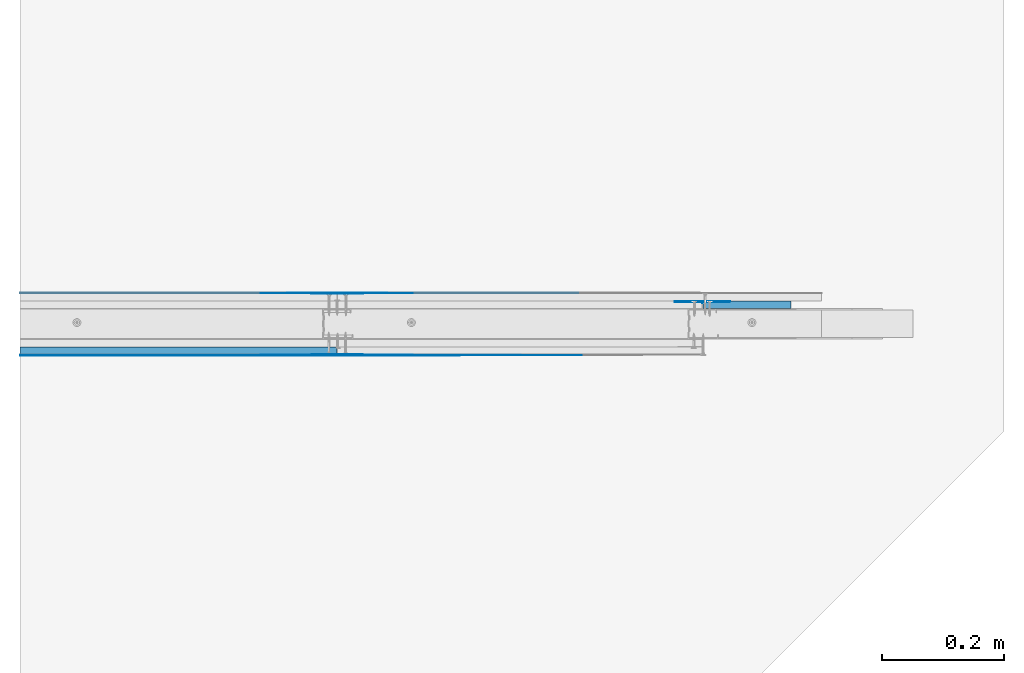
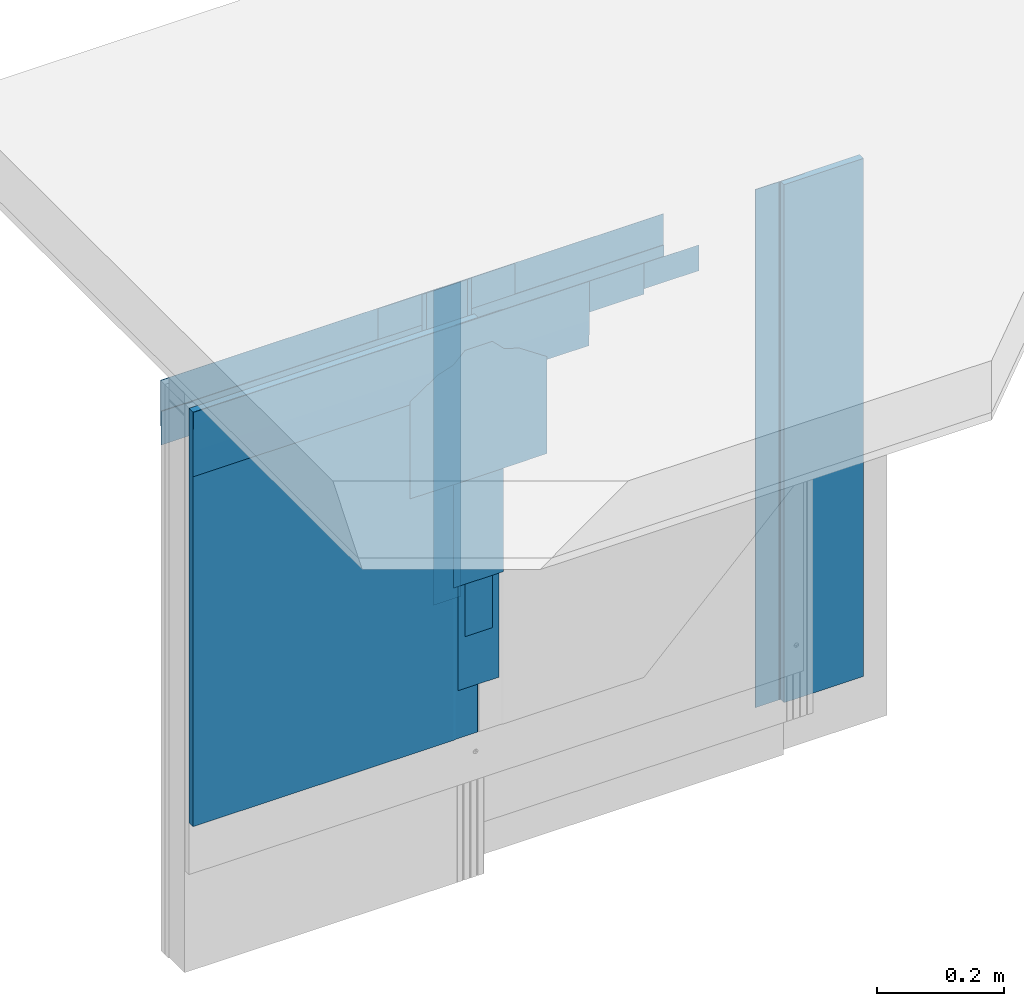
# One storey, part 3 of 36: 15 walls.
"""IFC2X3 building model written with IfcOpenShell, lengths in millimetres."""

from ifc_helpers import new_model, entity, si_unit, converted_unit, direction, frame, origin, origin_with_axes, place, context, project, spatial, faceted_brep, element, save


model = new_model("IFC2X3")

# Units and contexts
model_context = context("Model", 3, precision=1e-05, world=origin(), true_north=direction((0.0, 1.0, 0.0)))
ifc_project = project(units=[si_unit("LENGTHUNIT", "METRE", prefix="MILLI"), si_unit("AREAUNIT", "SQUARE_METRE"), si_unit("VOLUMEUNIT", "CUBIC_METRE"), converted_unit("PLANEANGLEUNIT", "DEGREE", entity("IfcPlaneAngleMeasure", 0.01745), si_unit("PLANEANGLEUNIT", "RADIAN"), dimensions=[0, 0, 0, 0, 0, 0, 0]), si_unit("SOLIDANGLEUNIT", "STERADIAN"), si_unit("MASSUNIT", "GRAM"), si_unit("TIMEUNIT", "SECOND"), si_unit("THERMODYNAMICTEMPERATUREUNIT", "DEGREE_CELSIUS"), si_unit("LUMINOUSINTENSITYUNIT", "LUMEN")], contexts=[model_context])

# Site, building, storey
site_placement = place(None, origin_with_axes())
site = spatial("IfcSite", under=ifc_project, at=site_placement, Name="Default Site", CompositionType="ELEMENT")
building_placement = place(site_placement, origin_with_axes())
building = spatial("IfcBuilding", under=site, at=building_placement, Name="Default Building", CompositionType="ELEMENT")
storey_placement = place(building_placement, origin_with_axes())
storey = spatial("IfcBuildingStorey", under=building, at=storey_placement, Name="Default Building Storey", CompositionType="ELEMENT", Elevation=0.0)

# Walls
wall_1_placement = place(storey_placement, frame((3247.843862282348, 2022.140922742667, 92.64515101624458), z_axis=(0.0, 0.0, -1.0), x_axis=(1.0, 0.0, 0.0)))
element("IfcWall", 1, at=wall_1_placement, inside=storey, Name="Płyta gipsowo-kartonowa RIGIPS PRO (4PRO™)", context=model_context, shape_type="Brep", body=[
    faceted_brep([(145.1967559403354, -12.49999999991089, -277.7777289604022), (145.1967559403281, 9.059988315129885e-11, -277.7777289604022), (145.1967559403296, 9.023892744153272e-11, -1277.779310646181), (145.1967559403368, -12.49999999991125, -1277.779310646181), (0.0, 0.0, -277.7777289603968), (44.99999999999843, -12.50000000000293, -277.7777289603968), (40.99999999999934, -11.50000000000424, -277.7777289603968), (0.9999999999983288, -11.5000000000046, -277.7777289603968), (0.7411809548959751, -11.46592582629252, -277.7777289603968), (0.4999999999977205, -11.3660254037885, -277.7777289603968), (0.2928932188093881, -11.20710678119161, -277.7777289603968), (0.1339745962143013, -11.00000000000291, -277.7777289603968), (0.03407417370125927, -10.7588190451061, -277.7777289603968), (-2.887645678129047e-12, -10.50000000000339, -277.7777289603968), (44.99999999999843, -12.50000000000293, -1277.779310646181), (40.99999999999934, -11.50000000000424, -1277.779310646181), (0.9999999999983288, -11.5000000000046, -1277.779310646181), (0.7411809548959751, -11.46592582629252, -1277.779310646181), (0.4999999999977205, -11.3660254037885, -1277.779310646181), (0.2928932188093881, -11.20710678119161, -1277.779310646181), (0.1339745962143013, -11.00000000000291, -1277.779310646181), (0.03407417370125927, -10.7588190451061, -1277.779310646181), (-2.887645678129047e-12, -10.50000000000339, -1277.779310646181), (0.0, 0.0, -1277.779310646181)], [[[0, 1, 2, 3]], [[4, 1, 0, 5, 6, 7, 8, 9, 10, 11, 12, 13]], [[0, 3, 14, 5]], [[6, 5, 14, 15]], [[7, 6, 15, 16]], [[8, 7, 16, 17]], [[9, 8, 17, 18]], [[10, 9, 18, 19]], [[11, 10, 19, 20]], [[12, 11, 20, 21]], [[13, 12, 21, 22]], [[4, 13, 22, 23]], [[23, 2, 1, 4]], [[14, 3, 2, 23, 22, 21, 20, 19, 18, 17, 16, 15]]]),
])
wall_2_placement = place(storey_placement, frame((3984.303078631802, -1356.465798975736, 1077.246212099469), z_axis=(0.0, 0.0, -1.0), x_axis=(1.0, 0.0, 0.0)))
element("IfcWall", 2, at=wall_2_placement, inside=storey, Name="Dedykowana masa szpachlowa Rigips - konstrukcyjna", context=model_context, shape_type="Brep", body=[
    faceted_brep([(-737.4838396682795, -3387.669590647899, 706.8233321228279), (-737.4592163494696, -3387.356721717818, 706.8233321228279), (-737.4345930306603, -3387.669590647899, 706.8233321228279), (-737.3613293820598, -3387.974755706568, 706.8233321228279), (-737.2412293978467, -3388.264702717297, 706.8233321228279), (-737.0772503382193, -3388.532292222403, 706.8233321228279), (-736.8734299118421, -3388.770935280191, 706.8233321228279), (-736.6347868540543, -3388.974755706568, 706.8233321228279), (-736.3671973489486, -3389.138734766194, 706.8233321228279), (-736.0772503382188, -3389.258834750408, 706.8233321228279), (-735.7720852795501, -3389.332098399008, 706.8233321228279), (-735.4592163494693, -3389.356721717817, 706.8233321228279), (-692.4592163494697, -3389.356721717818, 706.8233321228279), (-691.4592163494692, -3390.556721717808, 706.8233321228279), (-782.4592163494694, -3390.556721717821, 706.8233321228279), (-782.4592163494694, -3389.356721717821, 706.8233321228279), (-739.4592163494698, -3389.356721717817, 706.8233321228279), (-739.146347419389, -3389.332098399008, 706.8233321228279), (-738.8411823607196, -3389.258834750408, 706.8233321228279), (-738.5512353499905, -3389.138734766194, 706.8233321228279), (-738.2836458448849, -3388.974755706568, 706.8233321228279), (-738.045002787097, -3388.770935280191, 706.8233321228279), (-737.8411823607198, -3388.532292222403, 706.8233321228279), (-737.6772033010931, -3388.264702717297, 706.8233321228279), (-737.5571033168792, -3387.974755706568, 706.8233321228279), (-691.4592163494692, -3390.556721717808, -293.178249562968), (-692.4592163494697, -3389.356721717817, -293.178249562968), (-735.4592163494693, -3389.356721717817, -293.178249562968), (-735.7720852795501, -3389.332098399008, -293.178249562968), (-736.0772503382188, -3389.258834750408, -293.178249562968), (-736.3671973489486, -3389.138734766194, -293.178249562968), (-736.6347868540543, -3388.974755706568, -293.178249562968), (-736.8734299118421, -3388.77093528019, -293.178249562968), (-737.0772503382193, -3388.532292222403, -293.178249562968), (-737.2412293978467, -3388.264702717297, -293.178249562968), (-737.3613293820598, -3387.974755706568, -293.178249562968), (-737.4345930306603, -3387.669590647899, -293.178249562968), (-737.4592163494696, -3387.356721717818, -293.178249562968), (-737.4838396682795, -3387.669590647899, -293.178249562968), (-737.5571033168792, -3387.974755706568, -293.178249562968), (-737.6772033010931, -3388.264702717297, -293.178249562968), (-737.8411823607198, -3388.532292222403, -293.178249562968), (-738.045002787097, -3388.77093528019, -293.178249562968), (-738.2836458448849, -3388.974755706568, -293.178249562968), (-738.5512353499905, -3389.138734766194, -293.178249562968), (-738.8411823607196, -3389.258834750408, -293.178249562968), (-739.146347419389, -3389.332098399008, -293.178249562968), (-739.4592163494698, -3389.356721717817, -293.178249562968), (-782.4592163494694, -3389.356721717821, -293.178249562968), (-782.4592163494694, -3390.556721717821, -293.178249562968)], [[[0, 1, 2, 3, 4, 5, 6, 7, 8, 9, 10, 11, 12, 13, 14, 15, 16, 17, 18, 19, 20, 21, 22, 23, 24]], [[25, 26, 27, 28, 29, 30, 31, 32, 33, 34, 35, 36, 37, 38, 39, 40, 41, 42, 43, 44, 45, 46, 47, 48, 49]], [[26, 12, 11, 27]], [[10, 9, 29, 28]], [[28, 27, 11, 10]], [[8, 30, 29, 9]], [[7, 6, 32, 31]], [[31, 30, 8, 7]], [[5, 4, 34, 33]], [[33, 32, 6, 5]], [[3, 35, 34, 4]], [[2, 1, 37, 36]], [[36, 35, 3, 2]], [[0, 24, 39, 38]], [[38, 37, 1, 0]], [[23, 40, 39, 24]], [[22, 21, 42, 41]], [[41, 40, 23, 22]], [[20, 19, 44, 43]], [[43, 42, 21, 20]], [[18, 45, 44, 19]], [[17, 16, 47, 46]], [[46, 45, 18, 17]], [[47, 16, 15, 48]], [[48, 15, 14, 49]], [[49, 14, 13, 25]], [[25, 13, 12, 26]]]),
])
wall_3_placement = place(storey_placement, frame((2646.242430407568, 1958.680077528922, 320.4228799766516), z_axis=(0.0, 0.0, -1.0), x_axis=(-1.0, 6.389333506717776e-13, 0.0)))
element("IfcWall", 3, at=wall_3_placement, inside=storey, Name="Płyta gipsowo-kartonowa RIGIPS PRO (4PRO™)", context=model_context, shape_type="Brep", body=[
    faceted_brep([(521.2172969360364, -12.49999999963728, -249.9999999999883), (521.2172969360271, 3.349668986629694e-10, -249.9999999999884), (521.217296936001, 3.317182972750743e-10, -1050.001581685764), (521.2172969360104, -12.49999999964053, -1050.001581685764), (44.99999999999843, -12.50000000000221, -249.9999999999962), (40.99999999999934, -11.5000000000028, -249.9999999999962), (0.9999999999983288, -11.50000000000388, -249.9999999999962), (0.7411809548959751, -11.46592582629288, -249.9999999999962), (0.4999999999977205, -11.3660254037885, -249.9999999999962), (0.29289321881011, -11.20710678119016, -249.9999999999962), (0.1339745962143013, -11.00000000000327, -249.9999999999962), (0.03407417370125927, -10.7588190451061, -249.9999999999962), (-1.082867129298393e-12, -10.50000000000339, -249.9999999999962), (0.0, 0.0, -249.9999999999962), (44.99999999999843, -12.50000000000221, -1050.001581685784), (40.99999999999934, -11.5000000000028, -1050.001581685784), (0.9999999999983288, -11.50000000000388, -1050.001581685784), (0.7411809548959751, -11.46592582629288, -1050.001581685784), (0.4999999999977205, -11.3660254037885, -1050.001581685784), (0.29289321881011, -11.20710678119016, -1050.001581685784), (0.1339745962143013, -11.00000000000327, -1050.001581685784), (0.03407417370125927, -10.7588190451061, -1050.001581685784), (-1.082867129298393e-12, -10.50000000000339, -1050.001581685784), (0.0, 0.0, -1050.001581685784)], [[[0, 1, 2, 3]], [[0, 4, 5, 6, 7, 8, 9, 10, 11, 12, 13, 1]], [[3, 14, 4, 0]], [[5, 4, 14, 15]], [[6, 5, 15, 16]], [[7, 6, 16, 17]], [[8, 7, 17, 18]], [[9, 8, 18, 19]], [[10, 9, 19, 20]], [[11, 10, 20, 21]], [[12, 11, 21, 22]], [[13, 12, 22, 23]], [[2, 1, 13, 23]], [[14, 3, 2, 23, 22, 21, 20, 19, 18, 17, 16, 15]]]),
])
wall_4_placement = place(storey_placement, frame((3384.701646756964, -1343.275798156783, 1010.667767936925), z_axis=(1.250805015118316e-13, -1.021019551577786e-13, -1.0), x_axis=(1.0, -5.330939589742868e-15, 1.250805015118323e-13)))
element("IfcWall", 4, at=wall_4_placement, inside=storey, Name="Taśma spoinowa RIGIPS", context=model_context, shape_type="Brep", body=[
    faceted_brep([(-712.4592163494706, -3389.656721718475, 247.8592804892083), (-712.4592163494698, -3389.856721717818, 247.8592804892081), (-762.45921634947, -3389.856721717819, 247.8592804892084), (-762.4592163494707, -3389.656721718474, 247.8592804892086), (-712.4592163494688, -3389.856721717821, -359.7566937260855), (-712.4592163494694, -3389.656721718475, -359.7566937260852), (-762.4592163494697, -3389.656721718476, -359.756693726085), (-762.4592163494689, -3389.856721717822, -359.7566937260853)], [[[0, 1, 2, 3]], [[4, 5, 6, 7]], [[5, 0, 3, 6]], [[6, 3, 2, 7]], [[7, 2, 1, 4]], [[4, 1, 0, 5]]]),
])
wall_5_placement = place(storey_placement, frame((3383.701646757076, -1343.375798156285, 1372.936986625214), z_axis=(0.0, 0.0, -1.0), x_axis=(1.0, 0.0, 0.0)))
element("IfcWall", 5, at=wall_5_placement, inside=storey, Name="Dedykowana masa szpachlowa Rigips - wykończeniowa", context=model_context, shape_type="Brep", body=[
    faceted_brep([(-612.459216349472, -3390.556721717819, 2.51252496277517), (-862.459216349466, -3390.556721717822, 2.51252496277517), (-812.4612643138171, -3391.196716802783, 2.51252496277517), (-762.4602403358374, -3391.516720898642, 2.51252496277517), (-712.458192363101, -3391.516720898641, 2.51252496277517), (-662.4571683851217, -3391.19671680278, 2.51252496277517), (-762.4602403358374, -3391.516720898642, 308.4769205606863), (-812.4612643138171, -3391.196716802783, 308.4769205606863), (-862.459216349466, -3390.556721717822, 308.4769205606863), (-612.459216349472, -3390.556721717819, 308.4769205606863), (-662.4571683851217, -3391.19671680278, 308.4769205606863), (-712.458192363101, -3391.516720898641, 308.4769205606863)], [[[0, 1, 2, 3, 4, 5]], [[6, 7, 8, 9, 10, 11]], [[9, 0, 5, 10]], [[10, 5, 4, 11]], [[11, 4, 3, 6]], [[6, 3, 2, 7]], [[1, 8, 7, 2]], [[0, 9, 8, 1]]]),
])
wall_6_placement = place(storey_placement, frame((3396.701646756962, -1343.475798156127, 1048.692432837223), z_axis=(1.250805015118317e-13, -1.018436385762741e-13, -1.0), x_axis=(1.0, -5.330939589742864e-15, 1.250805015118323e-13)))
element("IfcWall", 6, at=wall_6_placement, inside=storey, Name="Dedykowana masa szpachlowa Rigips - konstrukcyjna", context=model_context, shape_type="Brep", body=[
    faceted_brep([(-712.459216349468, -3389.656721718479, 385.8839453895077), (-712.4592163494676, -3389.856721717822, 385.8839453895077), (-787.4592163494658, -3389.856721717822, 385.8839453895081), (-787.4592163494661, -3389.656721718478, 385.8839453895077), (-712.4592163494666, -3389.856721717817, -321.7320288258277), (-712.4592163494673, -3389.656721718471, -321.7320288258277), (-787.4592163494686, -3389.656721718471, -321.7320288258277), (-787.459216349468, -3389.856721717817, -321.7320288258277)], [[[0, 1, 2, 3]], [[4, 5, 6, 7]], [[5, 0, 3, 6]], [[6, 3, 2, 7]], [[7, 2, 1, 4]], [[4, 1, 0, 5]]]),
])
wall_7_placement = place(storey_placement, frame((1909.783214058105, -1343.375798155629, 1372.911892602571), z_axis=(0.0, 0.0, -1.0), x_axis=(-1.0, 0.0, 0.0)))
element("IfcWall", 7, at=wall_7_placement, inside=storey, Name="Dedykowana masa szpachlowa Rigips - konstrukcyjna", context=model_context, shape_type="Brep", body=[
    faceted_brep([(-691.4592163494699, 3390.556721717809, 508.4518265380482), (-694.7925496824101, 3389.556721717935, 508.4518265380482), (-694.7925496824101, 3389.556721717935, 2.487430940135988), (-691.4592163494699, 3390.556721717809, 2.48743094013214), (-699.4592163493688, 3389.556721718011, 2.48743094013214), (-699.459216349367, 3389.756721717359, 2.48743094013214), (-712.4592163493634, 3389.756721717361, 2.48743094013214), (-712.4592163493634, 3389.956721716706, 2.48743094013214), (-762.459216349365, 3389.956721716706, 2.48743094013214), (-762.4592163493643, 3389.756721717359, 2.48743094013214), (-774.4592163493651, 3389.756721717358, 2.48743094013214), (-774.4592163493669, 3389.556721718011, 2.48743094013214), (-778.4592163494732, 3389.556721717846, 2.48743094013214), (-782.4592163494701, 3390.556721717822, 2.48743094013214), (-778.459216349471, 3389.55672171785, 508.4518265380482), (-774.4592163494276, 3389.556721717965, 508.4518265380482), (-782.4592163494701, 3390.556721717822, 508.4518265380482), (-774.4592163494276, 3389.756721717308, 508.4518265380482), (-762.4592163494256, 3389.756721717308, 508.4518265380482), (-762.4592163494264, 3389.956721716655, 508.4518265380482), (-712.4592163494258, 3389.956721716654, 508.4518265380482), (-712.4592163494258, 3389.75672171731, 508.4518265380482), (-699.4592163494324, 3389.756721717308, 508.4518265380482), (-699.4592163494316, 3389.556721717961, 508.4518265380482)], [[[0, 1, 2, 3]], [[4, 5, 6, 7, 8, 9, 10, 11, 12, 13, 3, 2]], [[14, 12, 11, 15]], [[16, 13, 12, 14]], [[0, 16, 14, 15, 17, 18, 19, 20, 21, 22, 23, 1]], [[13, 16, 0, 3]], [[22, 5, 4, 23]], [[7, 20, 19, 8]], [[6, 21, 20, 7]], [[17, 10, 9, 18]], [[21, 6, 5, 22]], [[1, 23, 4, 2]], [[15, 11, 10, 17]], [[18, 9, 8, 19]]]),
])
wall_8_placement = place(storey_placement, frame((3384.701646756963, 5336.636799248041, 1010.667767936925), z_axis=(1.250805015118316e-13, 1.021019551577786e-13, -1.0), x_axis=(1.0, 5.330939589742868e-15, 1.250805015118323e-13)))
element("IfcWall", 8, at=wall_8_placement, inside=storey, Name="Taśma spoinowa RIGIPS", context=model_context, shape_type="Brep", body=[
    faceted_brep([(-712.4592163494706, 3389.656721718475, 247.8592804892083), (-712.4592163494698, 3389.856721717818, 247.8592804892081), (-762.45921634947, 3389.856721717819, 247.8592804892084), (-762.4592163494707, 3389.656721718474, 247.8592804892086), (-712.4592163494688, 3389.856721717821, -359.7566937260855), (-712.4592163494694, 3389.656721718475, -359.7566937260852), (-762.4592163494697, 3389.656721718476, -359.756693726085), (-762.4592163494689, 3389.856721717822, -359.7566937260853)], [[[0, 1, 2, 3]], [[4, 5, 6, 7]], [[5, 0, 3, 6]], [[6, 3, 2, 7]], [[7, 2, 1, 4]], [[4, 1, 0, 5]]]),
])
wall_9_placement = place(storey_placement, frame((3396.70164675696, 5336.836799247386, 1048.692432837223), z_axis=(1.250805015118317e-13, 1.018436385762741e-13, -1.0), x_axis=(1.0, 5.330939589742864e-15, 1.250805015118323e-13)))
element("IfcWall", 9, at=wall_9_placement, inside=storey, Name="Dedykowana masa szpachlowa Rigips - konstrukcyjna", context=model_context, shape_type="Brep", body=[
    faceted_brep([(-712.459216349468, 3389.656721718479, 385.8839453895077), (-712.4592163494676, 3389.856721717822, 385.8839453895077), (-787.4592163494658, 3389.856721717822, 385.8839453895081), (-787.4592163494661, 3389.656721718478, 385.8839453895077), (-712.4592163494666, 3389.856721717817, -321.7320288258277), (-712.4592163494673, 3389.656721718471, -321.7320288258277), (-787.4592163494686, 3389.656721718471, -321.7320288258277), (-787.459216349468, 3389.856721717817, -321.7320288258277)], [[[0, 1, 2, 3]], [[4, 5, 6, 7]], [[5, 0, 3, 6]], [[6, 3, 2, 7]], [[7, 2, 1, 4]], [[4, 1, 0, 5]]]),
])
wall_10_placement = place(storey_placement, frame((1909.783214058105, 5336.736799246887, 1372.911892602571), z_axis=(0.0, 0.0, -1.0), x_axis=(-1.0, 0.0, 0.0)))
element("IfcWall", 10, at=wall_10_placement, inside=storey, Name="Dedykowana masa szpachlowa Rigips - konstrukcyjna", context=model_context, shape_type="Brep", body=[
    faceted_brep([(-691.4592163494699, -3390.556721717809, 508.4518265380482), (-694.7925496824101, -3389.556721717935, 508.4518265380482), (-694.7925496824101, -3389.556721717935, 2.487430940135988), (-691.4592163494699, -3390.556721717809, 2.48743094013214), (-699.4592163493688, -3389.556721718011, 2.48743094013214), (-699.459216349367, -3389.756721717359, 2.48743094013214), (-712.4592163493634, -3389.756721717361, 2.48743094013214), (-712.4592163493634, -3389.956721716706, 2.48743094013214), (-762.459216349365, -3389.956721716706, 2.48743094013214), (-762.4592163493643, -3389.756721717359, 2.48743094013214), (-774.4592163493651, -3389.756721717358, 2.48743094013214), (-774.4592163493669, -3389.556721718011, 2.48743094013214), (-778.4592163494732, -3389.556721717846, 2.48743094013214), (-782.4592163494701, -3390.556721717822, 2.48743094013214), (-778.459216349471, -3389.55672171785, 508.4518265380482), (-774.4592163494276, -3389.556721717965, 508.4518265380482), (-782.4592163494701, -3390.556721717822, 508.4518265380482), (-774.4592163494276, -3389.756721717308, 508.4518265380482), (-762.4592163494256, -3389.756721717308, 508.4518265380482), (-762.4592163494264, -3389.956721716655, 508.4518265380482), (-712.4592163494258, -3389.956721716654, 508.4518265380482), (-712.4592163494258, -3389.75672171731, 508.4518265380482), (-699.4592163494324, -3389.756721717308, 508.4518265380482), (-699.4592163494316, -3389.556721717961, 508.4518265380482)], [[[0, 1, 2, 3]], [[4, 5, 6, 7, 8, 9, 10, 11, 12, 13, 3, 2]], [[14, 12, 11, 15]], [[16, 13, 12, 14]], [[0, 16, 14, 15, 17, 18, 19, 20, 21, 22, 23, 1]], [[13, 16, 0, 3]], [[22, 5, 4, 23]], [[7, 20, 19, 8]], [[6, 21, 20, 7]], [[17, 10, 9, 18]], [[21, 6, 5, 22]], [[1, 23, 4, 2]], [[15, 11, 10, 17]], [[18, 9, 8, 19]]]),
])
wall_11_placement = place(storey_placement, frame((3383.701646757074, 5336.736799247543, 1372.936986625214), z_axis=(0.0, 0.0, -1.0), x_axis=(1.0, 0.0, 0.0)))
element("IfcWall", 11, at=wall_11_placement, inside=storey, Name="Dedykowana masa szpachlowa Rigips - wykończeniowa", context=model_context, shape_type="Brep", body=[
    faceted_brep([(-612.459216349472, 3390.556721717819, 2.51252496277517), (-862.459216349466, 3390.556721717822, 2.51252496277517), (-812.4612643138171, 3391.196716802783, 2.51252496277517), (-762.4602403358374, 3391.516720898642, 2.51252496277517), (-712.458192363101, 3391.516720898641, 2.51252496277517), (-662.4571683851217, 3391.19671680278, 2.51252496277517), (-762.4602403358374, 3391.516720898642, 308.4769205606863), (-812.4612643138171, 3391.196716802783, 308.4769205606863), (-862.459216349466, 3390.556721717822, 308.4769205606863), (-612.459216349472, 3390.556721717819, 308.4769205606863), (-662.4571683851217, 3391.19671680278, 308.4769205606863), (-712.458192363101, 3391.516720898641, 308.4769205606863)], [[[0, 1, 2, 3, 4, 5]], [[6, 7, 8, 9, 10, 11]], [[9, 0, 5, 10]], [[10, 5, 4, 11]], [[11, 4, 3, 6]], [[6, 3, 2, 7]], [[1, 8, 7, 2]], [[0, 9, 8, 1]]]),
])
wall_12_placement = place(storey_placement, frame((2562.545703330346, 5335.136799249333, 2083.183678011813), z_axis=(1.0, 1.078684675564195e-13, 1.253835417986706e-13), x_axis=(-1.253835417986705e-13, -6.938893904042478e-16, 1.0)))
element("IfcWall", 12, at=wall_12_placement, inside=storey, Name="Dedykowana masa szpachlowa Rigips - konstrukcyjna", context=model_context, shape_type="Brep", body=[
    faceted_brep([(-762.459216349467, 3389.656721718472, -437.5205698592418), (-762.4592163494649, 3389.656721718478, 385.8839453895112), (-762.4592163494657, 3388.956721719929, 385.8839453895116), (-762.4592163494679, 3388.956721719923, -437.5205698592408), (-772.4592163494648, 3388.956721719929, 385.8839453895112), (-772.4592163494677, 3388.956721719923, -437.5205698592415), (-712.459216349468, 3389.65672171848, 385.8839453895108), (-712.4592163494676, 3389.856721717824, 385.8839453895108), (-772.4592163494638, 3389.856721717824, 385.8839453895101), (-712.4592163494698, 3389.856721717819, -437.5205698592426), (-712.4592163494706, 3389.656721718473, -437.5205698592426), (-772.4592163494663, 3389.856721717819, -437.5205698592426)], [[[0, 1, 2, 3]], [[2, 4, 5, 3]], [[6, 7, 8, 4, 2, 1]], [[9, 10, 0, 3, 5, 11]], [[0, 10, 6, 1]], [[4, 8, 11, 5]], [[11, 8, 7, 9]], [[9, 7, 6, 10]]]),
])
wall_13_placement = place(storey_placement, frame((2113.890138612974, 5336.436799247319, 2108.183678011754), z_axis=(1.0, 1.082015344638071e-13, 1.256333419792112e-13), x_axis=(-1.256333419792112e-13, -3.608224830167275e-16, 1.0)))
element("IfcWall", 13, at=wall_13_placement, inside=storey, Name="Dedykowana masa szpachlowa Rigips - wykończeniowa", context=model_context, shape_type="Brep", body=[
    faceted_brep([(-762.4602403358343, 3391.516720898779, 734.539510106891), (-762.4602403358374, 3391.516720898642, 11.13499485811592), (-812.4612643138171, 3391.196716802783, 11.13499485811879), (-812.461264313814, 3391.19671680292, 734.539510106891), (-797.4592163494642, 3391.156721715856, 11.13499485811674), (-797.4592163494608, 3391.156721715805, 734.5395101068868), (-797.4592163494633, 3390.756721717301, 734.5395101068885), (-797.4592163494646, 3390.75672171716, 11.13499485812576), (-737.4592163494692, 3391.516720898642, 11.13499485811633), (-737.4592163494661, 3391.516720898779, 734.539510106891), (-862.459216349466, 3390.256721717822, 11.13499485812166), (-862.4592163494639, 3390.256721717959, 734.5395101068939), (-737.4592163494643, 3391.156721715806, 734.539510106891), (-797.4592163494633, 3390.256721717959, 734.5395101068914), (-737.4592163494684, 3391.156721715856, 11.13499485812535), (-797.459216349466, 3390.256721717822, 11.13499485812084)], [[[0, 1, 2, 3]], [[4, 5, 6, 7]], [[8, 1, 0, 9]], [[10, 11, 3, 2]], [[12, 9, 0, 3, 11, 13, 6, 5]], [[14, 8, 9, 12]], [[13, 11, 10, 15]], [[13, 15, 7, 6]], [[14, 12, 5, 4]], [[4, 7, 15, 10, 2, 1, 8, 14]]]),
])
wall_14_placement = place(storey_placement, frame((2612.545703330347, 5335.336799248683, 2083.183678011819), z_axis=(1.0, 1.078684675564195e-13, 1.253835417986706e-13), x_axis=(-1.253835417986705e-13, -6.938893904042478e-16, 1.0)))
element("IfcWall", 14, at=wall_14_placement, inside=storey, Name="Taśma spoinowa RIGIPS", context=model_context, shape_type="Brep", body=[
    faceted_brep([(-712.4592163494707, 3389.656721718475, 435.8839453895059), (-712.4592163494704, 3389.856721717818, 435.8839453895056), (-762.4592163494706, 3389.856721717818, 435.8839453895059), (-762.4592163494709, 3389.656721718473, 435.8839453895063), (-712.4592163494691, 3389.856721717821, -487.5205698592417), (-712.4592163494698, 3389.656721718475, -487.5205698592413), (-762.45921634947, 3389.656721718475, -487.5205698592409), (-762.4592163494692, 3389.856721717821, -487.5205698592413)], [[[0, 1, 2, 3]], [[4, 5, 6, 7]], [[5, 0, 3, 6]], [[6, 3, 2, 7]], [[7, 2, 1, 4]], [[4, 1, 0, 5]]]),
])
wall_15_placement = place(storey_placement, frame((2308.501108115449, -1343.215798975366, 2108.183678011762), z_axis=(1.0, -1.082015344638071e-13, 1.256333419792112e-13), x_axis=(-1.256333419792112e-13, 3.608224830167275e-16, 1.0)))
element("IfcWall", 15, at=wall_15_placement, inside=storey, Name="Dedykowana masa szpachlowa Rigips - wykończeniowa", context=model_context, shape_type="Brep", body=[
    faceted_brep([(-762.4602403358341, -3391.51672089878, 734.539510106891), (-762.4602403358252, -3391.516720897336, -183.4759746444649), (-812.4612643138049, -3391.196716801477, -183.4759746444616), (-812.4612643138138, -3391.196716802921, 734.539510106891), (-797.459216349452, -3391.15672171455, -183.4759746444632), (-797.4592163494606, -3391.156721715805, 734.5395101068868), (-797.4592163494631, -3390.756721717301, 734.5395101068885), (-797.4592163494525, -3390.756721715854, -183.4759746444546), (-737.459216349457, -3391.516720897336, -183.4759746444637), (-737.4592163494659, -3391.51672089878, 734.539510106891), (-862.459216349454, -3390.256721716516, -183.4759746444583), (-862.4592163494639, -3390.25672171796, 734.5395101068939), (-737.4592163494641, -3391.156721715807, 734.539510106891), (-797.4592163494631, -3390.25672171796, 734.539510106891), (-737.4592163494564, -3391.15672171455, -183.4759746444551), (-797.4592163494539, -3390.256721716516, -183.4759746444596)], [[[0, 1, 2, 3]], [[4, 5, 6, 7]], [[8, 1, 0, 9]], [[10, 11, 3, 2]], [[12, 9, 0, 3, 11, 13, 6, 5]], [[14, 8, 9, 12]], [[13, 11, 10, 15]], [[13, 15, 7, 6]], [[14, 12, 5, 4]], [[4, 7, 15, 10, 2, 1, 8, 14]]]),
])

save(model, "model.ifc")
